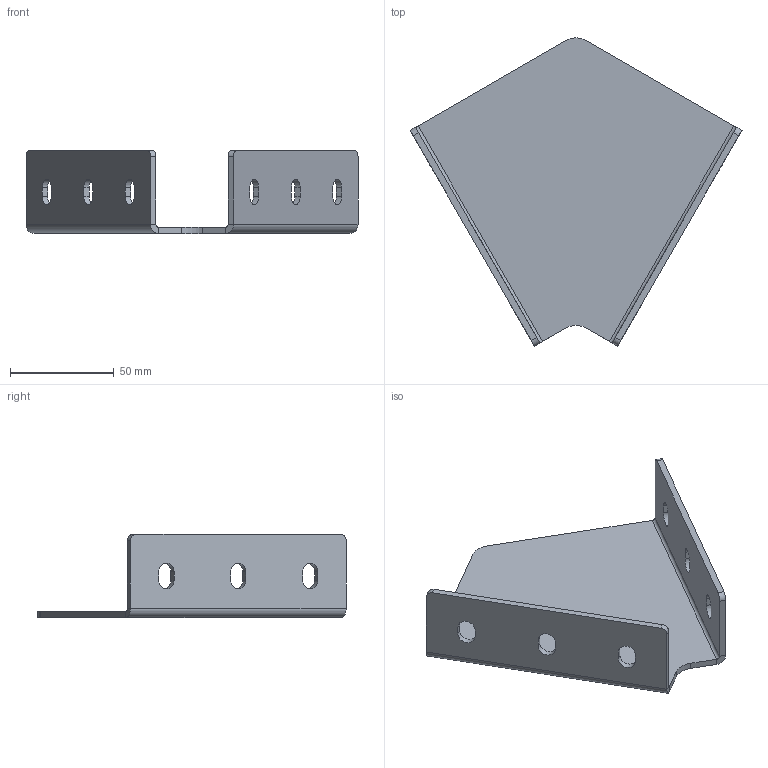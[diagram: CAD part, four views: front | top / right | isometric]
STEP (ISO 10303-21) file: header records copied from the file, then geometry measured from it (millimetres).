
FILE_DESCRIPTION (( 'STEP AP214' ), '1' );
FILE_NAME ('4012060.STEP', '2018-02-28T08:50:30', ( '' ), ( '' ), 'SwSTEP 2.0', 'SolidWorks 2014', '' );
FILE_SCHEMA (( 'AUTOMOTIVE_DESIGN' ));
Length unit declared in the file: millimetre
Products named in the file (2): 4012060
Bounding box: 160 x 148.56 x 40 mm (x, y, z)
Volume: 65625.6 mm3; surface area: 46194.5 mm2
Topology: 1 solids, 1 shells, 54 faces, 140 edges, 88 vertices
Faces by surface type: plane 32, cylinder 22
Entity records: 1713 total; most frequent: DIRECTION 296, CARTESIAN_POINT 284, ORIENTED_EDGE 280, EDGE_CURVE 140, AXIS2_PLACEMENT_3D 100, LINE 96, VECTOR 96, VERTEX_POINT 88
